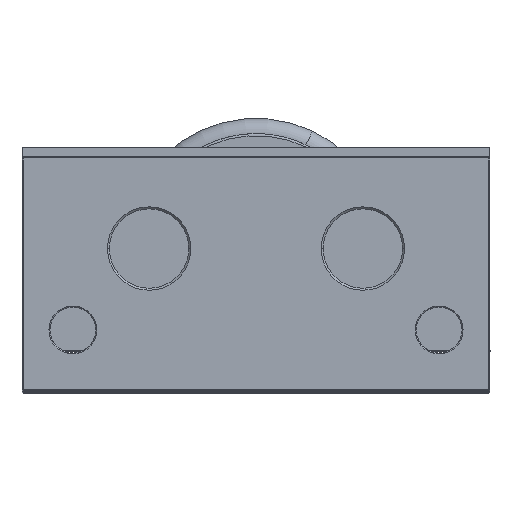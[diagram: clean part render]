
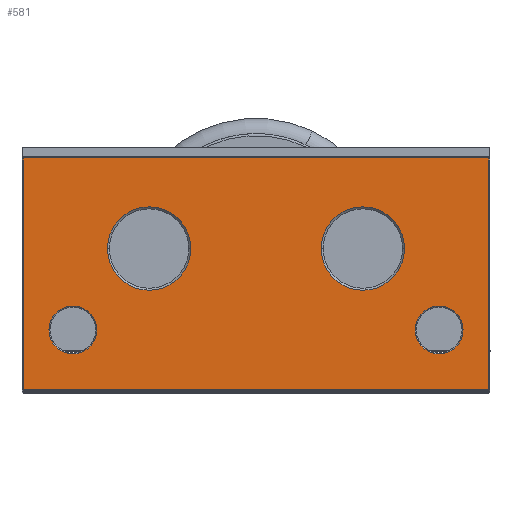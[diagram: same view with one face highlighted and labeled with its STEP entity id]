
A CAD part, top view. The second image highlights one B-rep face of the part: STEP entity #581.
In plain terms, the highlighted planar face has unit normal (0, 0, 1).
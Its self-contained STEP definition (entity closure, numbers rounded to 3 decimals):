
#221 = CARTESIAN_POINT ( 'NONE',  ( -6.4, 14., 120. ) ) ;
#476 = DIRECTION ( 'NONE',  ( 0., 0., -1. ) ) ;
#581 = ADVANCED_FACE ( 'NONE', ( #19414, #26683, #34096, #20272, #5979 ), #16369, .F. ) ;
#659 = DIRECTION ( 'NONE',  ( -1., 0., 0. ) ) ;
#1232 = VERTEX_POINT ( 'NONE', #11676 ) ;
#1912 = DIRECTION ( 'NONE',  ( 1., 0., 0. ) ) ;
#2040 = DIRECTION ( 'NONE',  ( 0., 0., -1. ) ) ;
#2084 = EDGE_CURVE ( 'NONE', #1232, #6071, #11277, .T. ) ;
#2095 = CARTESIAN_POINT ( 'NONE',  ( -18., 6., 120. ) ) ;
#2119 = CIRCLE ( 'NONE', #6102, 2.35 ) ;
#2129 = DIRECTION ( 'NONE',  ( 0., 0., -1. ) ) ;
#2310 = DIRECTION ( 'NONE',  ( 0., 0., -1. ) ) ;
#2416 = EDGE_LOOP ( 'NONE', ( #25660, #11246 ) ) ;
#2442 = ORIENTED_EDGE ( 'NONE', *, *, #22461, .T. ) ;
#2984 = DIRECTION ( 'NONE',  ( -1., 0., 0. ) ) ;
#3385 = LINE ( 'NONE', #27634, #31399 ) ;
#4214 = VECTOR ( 'NONE', #1912, 1000. ) ;
#4795 = DIRECTION ( 'NONE',  ( -1., 0., 0. ) ) ;
#5290 = AXIS2_PLACEMENT_3D ( 'NONE', #16564, #476, #19256 ) ;
#5658 = VERTEX_POINT ( 'NONE', #221 ) ;
#5710 = CARTESIAN_POINT ( 'NONE',  ( 6.4, 14., 120. ) ) ;
#5979 = FACE_OUTER_BOUND ( 'NONE', #29647, .T. ) ;
#6071 = VERTEX_POINT ( 'NONE', #20238 ) ;
#6102 = AXIS2_PLACEMENT_3D ( 'NONE', #18218, #2129, #20953 ) ;
#7259 = DIRECTION ( 'NONE',  ( 0., 0., -1. ) ) ;
#7626 = CIRCLE ( 'NONE', #21919, 2.35 ) ;
#7976 = AXIS2_PLACEMENT_3D ( 'NONE', #23434, #7259, #26121 ) ;
#8703 = CARTESIAN_POINT ( 'NONE',  ( -14.6, 14., 120. ) ) ;
#9599 = CARTESIAN_POINT ( 'NONE',  ( 15.65, 6., 120. ) ) ;
#9628 = CARTESIAN_POINT ( 'NONE',  ( 20.35, 6., 120. ) ) ;
#10221 = CARTESIAN_POINT ( 'NONE',  ( 14.6, 14., 120. ) ) ;
#10417 = ORIENTED_EDGE ( 'NONE', *, *, #20581, .T. ) ;
#10483 = CARTESIAN_POINT ( 'NONE',  ( -20.35, 6., 120. ) ) ;
#10514 = AXIS2_PLACEMENT_3D ( 'NONE', #18395, #2310, #21156 ) ;
#10540 = LINE ( 'NONE', #33086, #24929 ) ;
#11246 = ORIENTED_EDGE ( 'NONE', *, *, #12252, .T. ) ;
#11260 = VERTEX_POINT ( 'NONE', #29459 ) ;
#11277 = LINE ( 'NONE', #33339, #24842 ) ;
#11676 = CARTESIAN_POINT ( 'NONE',  ( -22.9, 22.9, 120. ) ) ;
#12010 = CARTESIAN_POINT ( 'NONE',  ( -15.65, 6., 120. ) ) ;
#12252 = EDGE_CURVE ( 'NONE', #13703, #28776, #31846, .T. ) ;
#13703 = VERTEX_POINT ( 'NONE', #5710 ) ;
#13910 = DIRECTION ( 'NONE',  ( 0., 0., -1. ) ) ;
#14024 = VERTEX_POINT ( 'NONE', #10483 ) ;
#14197 = EDGE_CURVE ( 'NONE', #11260, #1232, #3385, .T. ) ;
#15630 = EDGE_CURVE ( 'NONE', #28776, #13703, #30584, .T. ) ;
#16358 = CARTESIAN_POINT ( 'NONE',  ( 23., 0.1, 120. ) ) ;
#16369 = PLANE ( 'NONE',  #26913 ) ;
#16383 = EDGE_CURVE ( 'NONE', #5658, #33936, #32336, .T. ) ;
#16564 = CARTESIAN_POINT ( 'NONE',  ( -18., 6., 120. ) ) ;
#16747 = DIRECTION ( 'NONE',  ( 0., 0., -1. ) ) ;
#17091 = EDGE_CURVE ( 'NONE', #33823, #14024, #7626, .T. ) ;
#17305 = EDGE_CURVE ( 'NONE', #23900, #11260, #10540, .T. ) ;
#17827 = EDGE_CURVE ( 'NONE', #21226, #35246, #2119, .T. ) ;
#17992 = CIRCLE ( 'NONE', #5290, 2.35 ) ;
#18132 = CARTESIAN_POINT ( 'NONE',  ( -10.5, 14., 120. ) ) ;
#18218 = CARTESIAN_POINT ( 'NONE',  ( 18., 6., 120. ) ) ;
#18395 = CARTESIAN_POINT ( 'NONE',  ( 10.5, 14., 120. ) ) ;
#19063 = DIRECTION ( 'NONE',  ( 0., 0., -1. ) ) ;
#19256 = DIRECTION ( 'NONE',  ( -1., 0., 0. ) ) ;
#19414 = FACE_BOUND ( 'NONE', #2416, .T. ) ;
#19644 = ORIENTED_EDGE ( 'NONE', *, *, #17305, .T. ) ;
#20238 = CARTESIAN_POINT ( 'NONE',  ( -22.9, 0.1, 120. ) ) ;
#20272 = FACE_BOUND ( 'NONE', #26964, .T. ) ;
#20581 = EDGE_CURVE ( 'NONE', #33936, #5658, #22778, .T. ) ;
#20866 = DIRECTION ( 'NONE',  ( -1., 0., 0. ) ) ;
#20921 = DIRECTION ( 'NONE',  ( 0., 0., -1. ) ) ;
#20953 = DIRECTION ( 'NONE',  ( -1., 0., 0. ) ) ;
#21156 = DIRECTION ( 'NONE',  ( -1., 0., 0. ) ) ;
#21226 = VERTEX_POINT ( 'NONE', #9628 ) ;
#21421 = ORIENTED_EDGE ( 'NONE', *, *, #14197, .T. ) ;
#21919 = AXIS2_PLACEMENT_3D ( 'NONE', #2095, #20921, #4795 ) ;
#22142 = AXIS2_PLACEMENT_3D ( 'NONE', #33199, #16747, #659 ) ;
#22461 = EDGE_CURVE ( 'NONE', #14024, #33823, #17992, .T. ) ;
#22778 = CIRCLE ( 'NONE', #7976, 4.1 ) ;
#23133 = ORIENTED_EDGE ( 'NONE', *, *, #17827, .T. ) ;
#23434 = CARTESIAN_POINT ( 'NONE',  ( -10.5, 14., 120. ) ) ;
#23900 = VERTEX_POINT ( 'NONE', #33027 ) ;
#24031 = EDGE_LOOP ( 'NONE', ( #32166, #10417 ) ) ;
#24369 = AXIS2_PLACEMENT_3D ( 'NONE', #30255, #13910, #33093 ) ;
#24842 = VECTOR ( 'NONE', #30750, 1000. ) ;
#24910 = DIRECTION ( 'NONE',  ( -1., 0., 0. ) ) ;
#24929 = VECTOR ( 'NONE', #30247, 1000. ) ;
#25660 = ORIENTED_EDGE ( 'NONE', *, *, #15630, .T. ) ;
#25765 = LINE ( 'NONE', #16358, #4214 ) ;
#26121 = DIRECTION ( 'NONE',  ( -1., 0., 0. ) ) ;
#26683 = FACE_BOUND ( 'NONE', #24031, .T. ) ;
#26913 = AXIS2_PLACEMENT_3D ( 'NONE', #32797, #19063, #2984 ) ;
#26964 = EDGE_LOOP ( 'NONE', ( #23133, #29525 ) ) ;
#27634 = CARTESIAN_POINT ( 'NONE',  ( -23., 22.9, 120. ) ) ;
#27767 = ORIENTED_EDGE ( 'NONE', *, *, #2084, .T. ) ;
#28093 = EDGE_CURVE ( 'NONE', #35246, #21226, #34159, .T. ) ;
#28776 = VERTEX_POINT ( 'NONE', #10221 ) ;
#29459 = CARTESIAN_POINT ( 'NONE',  ( 22.9, 22.9, 120. ) ) ;
#29525 = ORIENTED_EDGE ( 'NONE', *, *, #28093, .T. ) ;
#29647 = EDGE_LOOP ( 'NONE', ( #21421, #27767, #34342, #19644 ) ) ;
#30247 = DIRECTION ( 'NONE',  ( 0., 1., 0. ) ) ;
#30255 = CARTESIAN_POINT ( 'NONE',  ( 18., 6., 120. ) ) ;
#30584 = CIRCLE ( 'NONE', #22142, 4.1 ) ;
#30750 = DIRECTION ( 'NONE',  ( 0., -1., 0. ) ) ;
#31283 = ORIENTED_EDGE ( 'NONE', *, *, #17091, .T. ) ;
#31399 = VECTOR ( 'NONE', #24910, 1000. ) ;
#31846 = CIRCLE ( 'NONE', #10514, 4.1 ) ;
#32166 = ORIENTED_EDGE ( 'NONE', *, *, #16383, .T. ) ;
#32336 = CIRCLE ( 'NONE', #32514, 4.1 ) ;
#32514 = AXIS2_PLACEMENT_3D ( 'NONE', #18132, #2040, #20866 ) ;
#32554 = EDGE_LOOP ( 'NONE', ( #31283, #2442 ) ) ;
#32797 = CARTESIAN_POINT ( 'NONE',  ( -23., 0., 120. ) ) ;
#33027 = CARTESIAN_POINT ( 'NONE',  ( 22.9, 0.1, 120. ) ) ;
#33086 = CARTESIAN_POINT ( 'NONE',  ( 22.9, 23., 120. ) ) ;
#33093 = DIRECTION ( 'NONE',  ( -1., 0., 0. ) ) ;
#33199 = CARTESIAN_POINT ( 'NONE',  ( 10.5, 14., 120. ) ) ;
#33339 = CARTESIAN_POINT ( 'NONE',  ( -22.9, 0., 120. ) ) ;
#33823 = VERTEX_POINT ( 'NONE', #12010 ) ;
#33897 = EDGE_CURVE ( 'NONE', #6071, #23900, #25765, .T. ) ;
#33936 = VERTEX_POINT ( 'NONE', #8703 ) ;
#34096 = FACE_BOUND ( 'NONE', #32554, .T. ) ;
#34159 = CIRCLE ( 'NONE', #24369, 2.35 ) ;
#34342 = ORIENTED_EDGE ( 'NONE', *, *, #33897, .T. ) ;
#35246 = VERTEX_POINT ( 'NONE', #9599 ) ;
